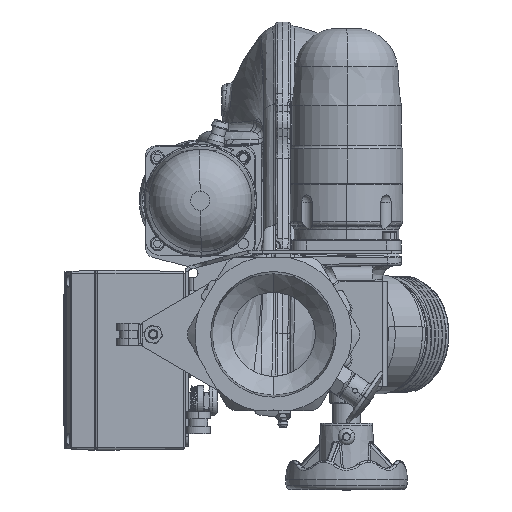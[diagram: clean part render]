
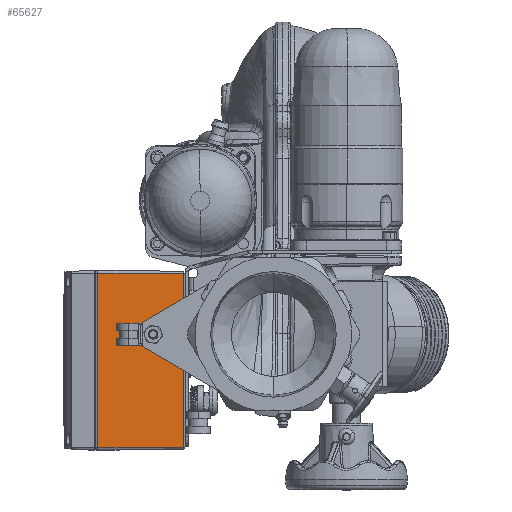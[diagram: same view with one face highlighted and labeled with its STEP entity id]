
A CAD part, front view. The second image highlights one B-rep face of the part: STEP entity #65627.
In plain terms, the highlighted planar face has unit normal (0.014, -1, 0).
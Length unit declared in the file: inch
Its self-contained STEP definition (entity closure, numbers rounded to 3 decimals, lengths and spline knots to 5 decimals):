
#8952 = VECTOR ( 'NONE', #82373, 39.37008 ) ;
#17349 = EDGE_CURVE ( 'NONE', #25575, #30991, #140495, .T. ) ;
#21620 = VECTOR ( 'NONE', #167456, 39.37008 ) ;
#25575 = VERTEX_POINT ( 'NONE', #71765 ) ;
#28522 = FACE_OUTER_BOUND ( 'NONE', #170854, .T. ) ;
#29796 = DIRECTION ( 'NONE',  ( 0., 0., 1. ) ) ;
#30991 = VERTEX_POINT ( 'NONE', #111198 ) ;
#33332 = CARTESIAN_POINT ( 'NONE',  ( -4.91855, -0.94932, -2.95679 ) ) ;
#38071 = VECTOR ( 'NONE', #29796, 39.37008 ) ;
#41219 = LINE ( 'NONE', #69267, #21620 ) ;
#47282 = CARTESIAN_POINT ( 'NONE',  ( -4.84757, -0.94833, -2.95679 ) ) ;
#51583 = AXIS2_PLACEMENT_3D ( 'NONE', #33332, #62104, #76225 ) ;
#55342 = CARTESIAN_POINT ( 'NONE',  ( -4.91855, -0.94932, 1.60321 ) ) ;
#59144 = ORIENTED_EDGE ( 'NONE', *, *, #17349, .T. ) ;
#62104 = DIRECTION ( 'NONE',  ( 0.014, -1., 0. ) ) ;
#65627 = ADVANCED_FACE ( 'NONE', ( #28522 ), #159660, .T. ) ;
#69267 = CARTESIAN_POINT ( 'NONE',  ( -4.91855, -0.94932, -2.95679 ) ) ;
#70673 = ORIENTED_EDGE ( 'NONE', *, *, #176689, .T. ) ;
#71765 = CARTESIAN_POINT ( 'NONE',  ( -2.60178, -0.91697, 1.60321 ) ) ;
#72545 = CARTESIAN_POINT ( 'NONE',  ( -4.84757, -0.94833, -2.95679 ) ) ;
#75373 = LINE ( 'NONE', #113753, #38071 ) ;
#76225 = DIRECTION ( 'NONE',  ( 1., 0.014, 0. ) ) ;
#82373 = DIRECTION ( 'NONE',  ( -1., -0.014, 0. ) ) ;
#93606 = VERTEX_POINT ( 'NONE', #47282 ) ;
#111198 = CARTESIAN_POINT ( 'NONE',  ( -4.84757, -0.94833, 1.60321 ) ) ;
#113753 = CARTESIAN_POINT ( 'NONE',  ( -2.60178, -0.91697, 1.60321 ) ) ;
#114012 = ORIENTED_EDGE ( 'NONE', *, *, #124684, .T. ) ;
#114049 = LINE ( 'NONE', #72545, #173492 ) ;
#124684 = EDGE_CURVE ( 'NONE', #30991, #93606, #114049, .T. ) ;
#138670 = ORIENTED_EDGE ( 'NONE', *, *, #145680, .F. ) ;
#140495 = LINE ( 'NONE', #55342, #8952 ) ;
#145680 = EDGE_CURVE ( 'NONE', #171520, #93606, #41219, .T. ) ;
#159660 = PLANE ( 'NONE',  #51583 ) ;
#165019 = CARTESIAN_POINT ( 'NONE',  ( -2.60178, -0.91697, -2.95679 ) ) ;
#167456 = DIRECTION ( 'NONE',  ( -1., -0.014, 0. ) ) ;
#169514 = DIRECTION ( 'NONE',  ( 0., 0., -1. ) ) ;
#170854 = EDGE_LOOP ( 'NONE', ( #138670, #70673, #59144, #114012 ) ) ;
#171520 = VERTEX_POINT ( 'NONE', #165019 ) ;
#173492 = VECTOR ( 'NONE', #169514, 39.37008 ) ;
#176689 = EDGE_CURVE ( 'NONE', #171520, #25575, #75373, .T. ) ;
